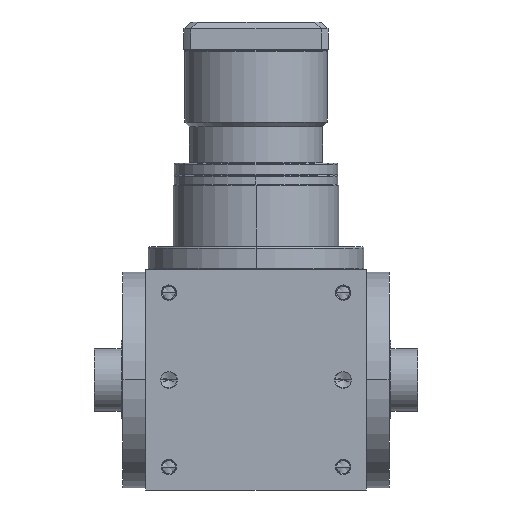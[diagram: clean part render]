
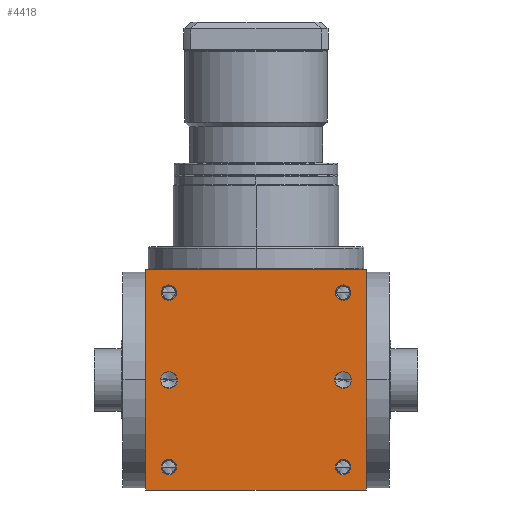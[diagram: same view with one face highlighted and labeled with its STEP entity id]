
A CAD part, front view. The second image highlights one B-rep face of the part: STEP entity #4418.
In plain terms, the highlighted planar face has unit normal (0, -1, 0).
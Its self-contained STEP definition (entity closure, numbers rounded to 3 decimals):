
#5=DIRECTION('',(1.,0.,0.));
#6=VECTOR('',#5,240.);
#7=CARTESIAN_POINT('',(-120.,-120.,-120.));
#8=LINE('',#7,#6);
#155=DIRECTION('',(0.,0.,1.));
#156=VECTOR('',#155,240.);
#157=CARTESIAN_POINT('',(120.,-120.,-120.));
#158=LINE('',#157,#156);
#209=DIRECTION('',(0.,0.,1.));
#210=VECTOR('',#209,240.);
#211=CARTESIAN_POINT('',(-120.,-120.,-120.));
#212=LINE('',#211,#210);
#213=CARTESIAN_POINT('',(95.,-120.,95.));
#214=DIRECTION('',(0.,1.,0.));
#215=DIRECTION('',(-1.,0.,0.));
#216=AXIS2_PLACEMENT_3D('',#213,#214,#215);
#218=CARTESIAN_POINT('',(95.,-120.,95.));
#219=DIRECTION('',(0.,1.,0.));
#220=DIRECTION('',(1.,0.,0.));
#221=AXIS2_PLACEMENT_3D('',#218,#219,#220);
#223=CARTESIAN_POINT('',(-95.,-120.,95.));
#224=DIRECTION('',(0.,1.,0.));
#225=DIRECTION('',(-1.,0.,0.));
#226=AXIS2_PLACEMENT_3D('',#223,#224,#225);
#228=CARTESIAN_POINT('',(-95.,-120.,95.));
#229=DIRECTION('',(0.,1.,0.));
#230=DIRECTION('',(1.,0.,0.));
#231=AXIS2_PLACEMENT_3D('',#228,#229,#230);
#233=CARTESIAN_POINT('',(95.,-120.,-95.));
#234=DIRECTION('',(0.,1.,0.));
#235=DIRECTION('',(-1.,0.,0.));
#236=AXIS2_PLACEMENT_3D('',#233,#234,#235);
#238=CARTESIAN_POINT('',(95.,-120.,-95.));
#239=DIRECTION('',(0.,1.,0.));
#240=DIRECTION('',(1.,0.,0.));
#241=AXIS2_PLACEMENT_3D('',#238,#239,#240);
#243=CARTESIAN_POINT('',(-95.,-120.,-95.));
#244=DIRECTION('',(0.,1.,0.));
#245=DIRECTION('',(-1.,0.,0.));
#246=AXIS2_PLACEMENT_3D('',#243,#244,#245);
#248=CARTESIAN_POINT('',(-95.,-120.,-95.));
#249=DIRECTION('',(0.,1.,0.));
#250=DIRECTION('',(1.,0.,0.));
#251=AXIS2_PLACEMENT_3D('',#248,#249,#250);
#253=CARTESIAN_POINT('',(-95.,-120.,0.));
#254=DIRECTION('',(0.,1.,0.));
#255=DIRECTION('',(1.,0.,0.));
#256=AXIS2_PLACEMENT_3D('',#253,#254,#255);
#258=CARTESIAN_POINT('',(-95.,-120.,0.));
#259=DIRECTION('',(0.,1.,0.));
#260=DIRECTION('',(-1.,0.,0.));
#261=AXIS2_PLACEMENT_3D('',#258,#259,#260);
#263=CARTESIAN_POINT('',(95.,-120.,0.));
#264=DIRECTION('',(0.,1.,0.));
#265=DIRECTION('',(1.,0.,0.));
#266=AXIS2_PLACEMENT_3D('',#263,#264,#265);
#268=CARTESIAN_POINT('',(95.,-120.,0.));
#269=DIRECTION('',(0.,1.,0.));
#270=DIRECTION('',(-1.,0.,0.));
#271=AXIS2_PLACEMENT_3D('',#268,#269,#270);
#285=DIRECTION('',(1.,0.,0.));
#286=VECTOR('',#285,240.);
#287=CARTESIAN_POINT('',(-120.,-120.,120.));
#288=LINE('',#287,#286);
#3556=CARTESIAN_POINT('',(-120.,-120.,-120.));
#3558=VERTEX_POINT('',#3556);
#3559=CARTESIAN_POINT('',(120.,-120.,-120.));
#3560=VERTEX_POINT('',#3559);
#3564=CARTESIAN_POINT('',(-120.,-120.,120.));
#3566=VERTEX_POINT('',#3564);
#3567=CARTESIAN_POINT('',(120.,-120.,120.));
#3568=VERTEX_POINT('',#3567);
#3723=CARTESIAN_POINT('',(86.6,-120.,95.));
#3724=CARTESIAN_POINT('',(103.4,-120.,95.));
#3725=VERTEX_POINT('',#3723);
#3726=VERTEX_POINT('',#3724);
#3731=CARTESIAN_POINT('',(-103.4,-120.,95.));
#3732=CARTESIAN_POINT('',(-86.6,-120.,95.));
#3733=VERTEX_POINT('',#3731);
#3734=VERTEX_POINT('',#3732);
#3739=CARTESIAN_POINT('',(86.6,-120.,-95.));
#3740=CARTESIAN_POINT('',(103.4,-120.,-95.));
#3741=VERTEX_POINT('',#3739);
#3742=VERTEX_POINT('',#3740);
#3747=CARTESIAN_POINT('',(-103.4,-120.,-95.));
#3748=CARTESIAN_POINT('',(-86.6,-120.,-95.));
#3749=VERTEX_POINT('',#3747);
#3750=VERTEX_POINT('',#3748);
#4071=CARTESIAN_POINT('',(-85.95,-120.,
0.));
#4072=CARTESIAN_POINT('',(-104.05,-120.,
0.));
#4073=VERTEX_POINT('',#4071);
#4074=VERTEX_POINT('',#4072);
#4079=CARTESIAN_POINT('',(104.05,-120.,0.));
#4080=CARTESIAN_POINT('',(85.95,-120.,0.));
#4081=VERTEX_POINT('',#4079);
#4082=VERTEX_POINT('',#4080);
#4370=CARTESIAN_POINT('',(-120.,-120.,-120.));
#4371=DIRECTION('',(0.,-1.,0.));
#4372=DIRECTION('',(1.,0.,0.));
#4373=AXIS2_PLACEMENT_3D('',#4370,#4371,#4372);
#4374=PLANE('',#4373);
#4375=ORIENTED_EDGE('',*,*,#4210,.F.);
#4376=ORIENTED_EDGE('',*,*,#4253,.T.);
#4378=ORIENTED_EDGE('',*,*,#4377,.T.);
#4379=ORIENTED_EDGE('',*,*,#4332,.F.);
#4380=EDGE_LOOP('',(#4375,#4376,#4378,#4379));
#4381=FACE_OUTER_BOUND('',#4380,.F.);
#4383=ORIENTED_EDGE('',*,*,#4382,.F.);
#4385=ORIENTED_EDGE('',*,*,#4384,.F.);
#4386=EDGE_LOOP('',(#4383,#4385));
#4387=FACE_BOUND('',#4386,.F.);
#4389=ORIENTED_EDGE('',*,*,#4388,.F.);
#4391=ORIENTED_EDGE('',*,*,#4390,.F.);
#4392=EDGE_LOOP('',(#4389,#4391));
#4393=FACE_BOUND('',#4392,.F.);
#4395=ORIENTED_EDGE('',*,*,#4394,.F.);
#4397=ORIENTED_EDGE('',*,*,#4396,.F.);
#4398=EDGE_LOOP('',(#4395,#4397));
#4399=FACE_BOUND('',#4398,.F.);
#4401=ORIENTED_EDGE('',*,*,#4400,.F.);
#4403=ORIENTED_EDGE('',*,*,#4402,.F.);
#4404=EDGE_LOOP('',(#4401,#4403));
#4405=FACE_BOUND('',#4404,.F.);
#4407=ORIENTED_EDGE('',*,*,#4406,.F.);
#4409=ORIENTED_EDGE('',*,*,#4408,.F.);
#4410=EDGE_LOOP('',(#4407,#4409));
#4411=FACE_BOUND('',#4410,.F.);
#4413=ORIENTED_EDGE('',*,*,#4412,.F.);
#4415=ORIENTED_EDGE('',*,*,#4414,.F.);
#4416=EDGE_LOOP('',(#4413,#4415));
#4417=FACE_BOUND('',#4416,.F.);
#4418=ADVANCED_FACE('',(#4381,#4387,#4393,#4399,#4405,#4411,#4417),#4374,.T.);
#217=CIRCLE('',#216,8.4);
#222=CIRCLE('',#221,8.4);
#227=CIRCLE('',#226,8.4);
#232=CIRCLE('',#231,8.4);
#237=CIRCLE('',#236,8.4);
#242=CIRCLE('',#241,8.4);
#247=CIRCLE('',#246,8.4);
#252=CIRCLE('',#251,8.4);
#257=CIRCLE('',#256,9.05);
#262=CIRCLE('',#261,9.05);
#267=CIRCLE('',#266,9.05);
#272=CIRCLE('',#271,9.05);
#4210=EDGE_CURVE('',#3558,#3560,#8,.T.);
#4253=EDGE_CURVE('',#3558,#3566,#212,.T.);
#4332=EDGE_CURVE('',#3560,#3568,#158,.T.);
#4377=EDGE_CURVE('',#3566,#3568,#288,.T.);
#4382=EDGE_CURVE('',#3725,#3726,#217,.T.);
#4384=EDGE_CURVE('',#3726,#3725,#222,.T.);
#4388=EDGE_CURVE('',#3733,#3734,#227,.T.);
#4390=EDGE_CURVE('',#3734,#3733,#232,.T.);
#4394=EDGE_CURVE('',#3741,#3742,#237,.T.);
#4396=EDGE_CURVE('',#3742,#3741,#242,.T.);
#4400=EDGE_CURVE('',#3749,#3750,#247,.T.);
#4402=EDGE_CURVE('',#3750,#3749,#252,.T.);
#4406=EDGE_CURVE('',#4073,#4074,#257,.T.);
#4408=EDGE_CURVE('',#4074,#4073,#262,.T.);
#4412=EDGE_CURVE('',#4081,#4082,#267,.T.);
#4414=EDGE_CURVE('',#4082,#4081,#272,.T.);
